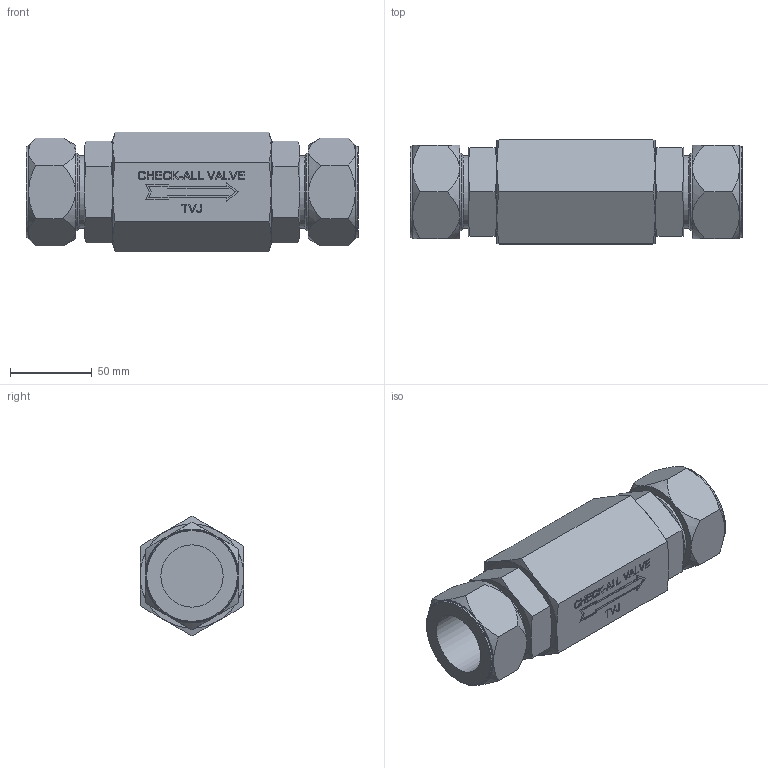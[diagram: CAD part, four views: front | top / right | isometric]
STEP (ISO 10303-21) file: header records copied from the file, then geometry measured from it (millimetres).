
FILE_DESCRIPTION( ( 'Unknown' ), '1' );
FILE_NAME( 'Y:/ENGR/3D Solid Edge Models/TV/stp/TVJ.stp', 'Unknown', ( 'Unknown' ), ( 'Unknown' ), 'PSStep 16.0.42', 'Unknown', ' ' );
FILE_SCHEMA( ( 'AUTOMOTIVE_DESIGN { 1 0 10303 214 1 1 1 1 }' ) );
Length unit declared in the file: millimetre
Products named in the file (1): 5033c (Nut)
Bounding box: 202.86 x 63.5 x 73.32 mm (x, y, z)
Volume: 540386.2 mm3; surface area: 60294.2 mm2
Topology: 1 solids, 1 shells, 406 faces, 1028 edges, 607 vertices
Faces by surface type: extrusion 133, plane 87, cone 64, bspline 48, torus 42, cylinder 32
Full cylindrical faces by diameter (mm): 38.1 x2, 44.602 x2, 47.625 x2, 55.88 x2
Entity records: 19396 total; most frequent: CARTESIAN_POINT 7655, ORIENTED_EDGE 1914, DIRECTION 1329, EDGE_CURVE 957, VERTEX_POINT 602, B_SPLINE_CURVE_WITH_KNOTS 542, VECTOR 485, EDGE_LOOP 455
